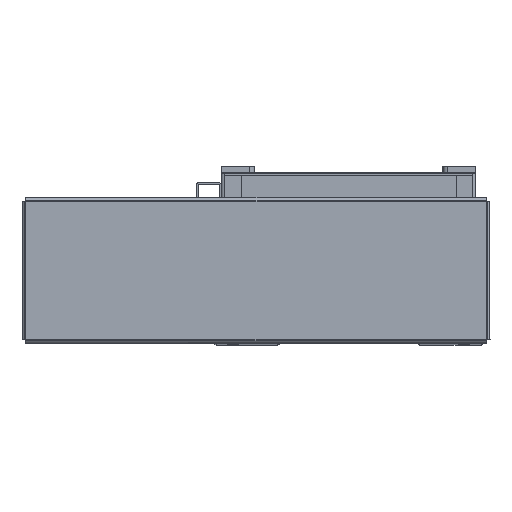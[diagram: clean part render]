
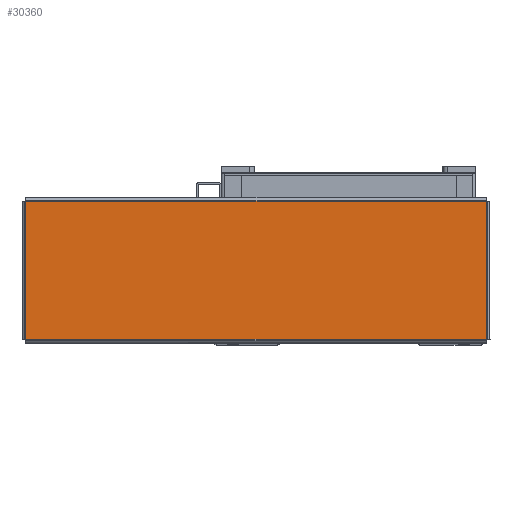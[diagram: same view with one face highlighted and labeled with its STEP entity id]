
A CAD part, top view. The second image highlights one B-rep face of the part: STEP entity #30360.
In plain terms, the highlighted planar face has unit normal (0, 0, 1) as drawn and (0, -1, 0) by its records, which use the part's own axes.
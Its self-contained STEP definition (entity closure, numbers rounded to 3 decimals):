
#1072 = EDGE_CURVE ( 'NONE', #51473, #51465, #3591, .T. ) ;
#1126 = EDGE_CURVE ( 'NONE', #51469, #51473, #3659, .T. ) ;
#1135 = EDGE_CURVE ( 'NONE', #51497, #51469, #3637, .T. ) ;
#1172 = EDGE_CURVE ( 'NONE', #51465, #51497, #3683, .T. ) ;
#3558 = VECTOR ( 'NONE', #32323, 1000. ) ;
#3591 = LINE ( 'NONE', #32335, #3558 ) ;
#3600 = VECTOR ( 'NONE', #32462, 1000. ) ;
#3619 = VECTOR ( 'NONE', #10961, 1000. ) ;
#3637 = LINE ( 'NONE', #10967, #3619 ) ;
#3659 = LINE ( 'NONE', #32461, #3600 ) ;
#3683 = LINE ( 'NONE', #10226, #3708 ) ;
#3708 = VECTOR ( 'NONE', #10189, 1000. ) ;
#10189 = DIRECTION ( 'NONE',  ( 0., 0., 1. ) ) ;
#10226 = CARTESIAN_POINT ( 'NONE',  ( 139.263, -1.5, -41.793 ) ) ;
#10961 = DIRECTION ( 'NONE',  ( -1., 0., 0. ) ) ;
#10967 = CARTESIAN_POINT ( 'NONE',  ( 139.293, -1.5, 41.763 ) ) ;
#11067 = AXIS2_PLACEMENT_3D ( 'NONE', #42653, #42685, #42686 ) ;
#19744 = ORIENTED_EDGE ( 'NONE', *, *, #1126, .T. ) ;
#19788 = ORIENTED_EDGE ( 'NONE', *, *, #1172, .T. ) ;
#30360 = ADVANCED_FACE ( 'NONE', ( #41244 ), #42679, .F. ) ;
#30589 = CARTESIAN_POINT ( 'NONE',  ( -139.263, -1.5, 41.763 ) ) ;
#30636 = CARTESIAN_POINT ( 'NONE',  ( 139.263, -1.5, -41.763 ) ) ;
#30637 = CARTESIAN_POINT ( 'NONE',  ( -139.263, -1.5, -41.763 ) ) ;
#30771 = CARTESIAN_POINT ( 'NONE',  ( 139.263, -1.5, 41.763 ) ) ;
#32323 = DIRECTION ( 'NONE',  ( 1., 0., 0. ) ) ;
#32335 = CARTESIAN_POINT ( 'NONE',  ( -139.293, -1.5, -41.763 ) ) ;
#32461 = CARTESIAN_POINT ( 'NONE',  ( -139.263, -1.5, 41.793 ) ) ;
#32462 = DIRECTION ( 'NONE',  ( 0., 0., -1. ) ) ;
#36973 = ORIENTED_EDGE ( 'NONE', *, *, #1135, .T. ) ;
#36989 = ORIENTED_EDGE ( 'NONE', *, *, #1072, .T. ) ;
#38211 = EDGE_LOOP ( 'NONE', ( #19788, #36973, #19744, #36989 ) ) ;
#41244 = FACE_OUTER_BOUND ( 'NONE', #38211, .T. ) ;
#42653 = CARTESIAN_POINT ( 'NONE',  ( 0., -1.5, 0. ) ) ;
#42679 = PLANE ( 'NONE',  #11067 ) ;
#42685 = DIRECTION ( 'NONE',  ( 0., 1., 0. ) ) ;
#42686 = DIRECTION ( 'NONE',  ( 0., 0., 1. ) ) ;
#51465 = VERTEX_POINT ( 'NONE', #30636 ) ;
#51469 = VERTEX_POINT ( 'NONE', #30589 ) ;
#51473 = VERTEX_POINT ( 'NONE', #30637 ) ;
#51497 = VERTEX_POINT ( 'NONE', #30771 ) ;
